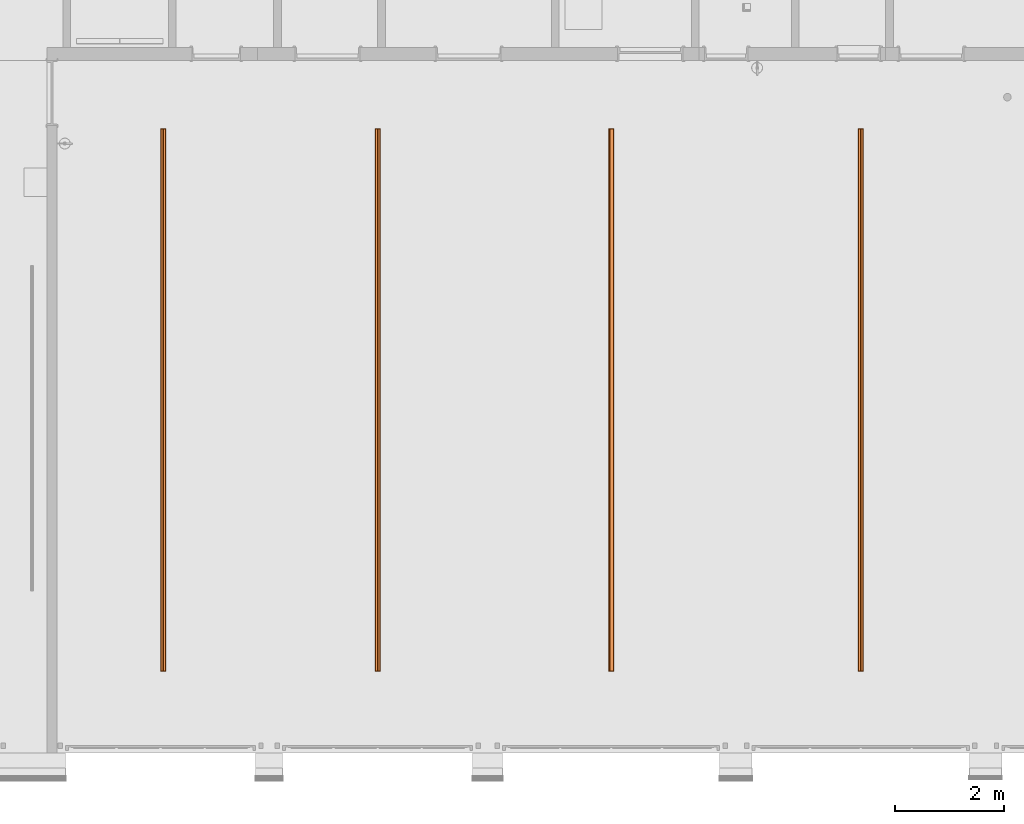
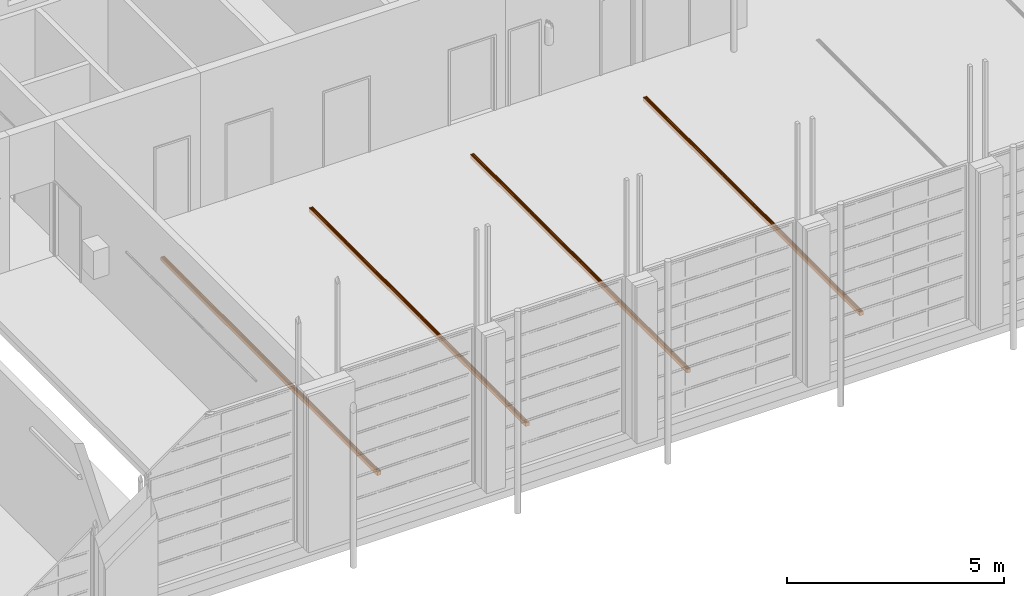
# One storey, part 65 of 112: 4 proxies.
"""IFC2X3 building model written with IfcOpenShell, lengths in millimetres."""

from ifc_helpers import new_model, entity, si_unit, converted_unit, derived_unit, money_unit, direction, frame, origin_with_axes, place, context, subcontext, project, spatial, faceted_brep, source, transform, mapped, type_object, element, save


model = new_model("IFC2X3")

# Units and contexts
model_context = context("Model", 3, precision=0.01, world=origin_with_axes(), true_north=direction((0.0, 1.0)))
body_context = subcontext(model_context, "Body", "Model", "MODEL_VIEW")
ifc_project = project(units=[si_unit("LENGTHUNIT", "METRE", prefix="MILLI"), si_unit("AREAUNIT", "SQUARE_METRE"), si_unit("VOLUMEUNIT", "CUBIC_METRE"), converted_unit("PLANEANGLEUNIT", "DEGREE", entity("IfcPlaneAngleMeasure", 0.0174532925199), si_unit("PLANEANGLEUNIT", "RADIAN"), dimensions=[0, 0, 0, 0, 0, 0, 0]), si_unit("SOLIDANGLEUNIT", "STERADIAN"), money_unit("EUR"), converted_unit("TIMEUNIT", "Year", entity("IfcTimeMeasure", 31556926.0), si_unit("TIMEUNIT", "SECOND"), dimensions=[0, 0, 1, 0, 0, 0, 0]), si_unit("MASSUNIT", "GRAM", prefix="KILO"), si_unit("THERMODYNAMICTEMPERATUREUNIT", "DEGREE_CELSIUS"), si_unit("LUMINOUSINTENSITYUNIT", "LUMEN"), si_unit("ENERGYUNIT", "JOULE", prefix="MEGA"), derived_unit("THERMALCONDUCTANCEUNIT", [(si_unit("POWERUNIT", "WATT"), 1), (si_unit("LENGTHUNIT", "METRE"), -1), (si_unit("THERMODYNAMICTEMPERATUREUNIT", "KELVIN"), -1)]), derived_unit("SPECIFICHEATCAPACITYUNIT", [(si_unit("ENERGYUNIT", "JOULE"), 1), (si_unit("MASSUNIT", "GRAM", prefix="KILO"), -1), (si_unit("THERMODYNAMICTEMPERATUREUNIT", "KELVIN"), -1)]), derived_unit("MASSDENSITYUNIT", [(si_unit("MASSUNIT", "GRAM", prefix="KILO"), 1), (si_unit("VOLUMEUNIT", "CUBIC_METRE"), -1)])], contexts=[model_context])

# Site, building, storey
site_placement = place(None, origin_with_axes())
site = spatial("IfcSite", under=ifc_project, at=site_placement, Name="Politse- ja Piirivalveameti ning Päästeameti ühishoone", CompositionType="ELEMENT")
building_placement = place(site_placement, origin_with_axes())
building = spatial("IfcBuilding", under=site, at=building_placement, Name="Politse- ja Piirivalveameti ning Päästeameti ühishoone", CompositionType="ELEMENT")
storey_placement = place(building_placement, origin_with_axes())
storey = spatial("IfcBuildingStorey", under=building, at=storey_placement, Name="Esimene korrus", CompositionType="ELEMENT", Elevation=0.0)

# Proxies
building_element_proxy_type = type_object("IfcBuildingElementProxyType", Name="Grid 23", PredefinedType="NOTDEFINED")
shared_shape = source(origin_with_axes(), body_context, "Body", "Brep", [
    faceted_brep([(0.0, 0.0, 0.0), (5.0, 5.0, 0.0), (5.0, 5.0, 100.0), (0.0, 0.0, 100.0), (0.0, 10000.0, 0.0), (5.0, 9995.0, 0.0), (5.0, 5001.0, 0.0), (5.0, 4999.0, 0.0), (5.0, 4999.0, 100.0), (5.0, 5001.0, 100.0), (5.0, 9995.0, 100.0), (0.0, 10000.0, 100.0)], [[[0, 1, 2, 3]], [[0, 4, 5, 6, 7, 1]], [[1, 7, 8, 2]], [[3, 2, 8, 9, 10, 11]], [[4, 0, 3, 11]], [[5, 4, 11, 10]], [[6, 5, 10, 9]], [[7, 6, 9, 8]]]),
    faceted_brep([(100.0, 10000.0, 0.0), (95.0, 9995.0, 0.0), (95.0, 9995.0, 100.0), (100.0, 10000.0, 100.0), (100.0, 0.0, 0.0), (95.0, 5.0, 0.0), (95.0, 4999.0, 0.0), (95.0, 5001.0, 0.0), (95.0, 5001.0, 100.0), (95.0, 4999.0, 100.0), (95.0, 5.0, 100.0), (100.0, 0.0, 100.0)], [[[0, 1, 2, 3]], [[0, 4, 5, 6, 7, 1]], [[1, 7, 8, 2]], [[3, 2, 8, 9, 10, 11]], [[4, 0, 3, 11]], [[5, 4, 11, 10]], [[6, 5, 10, 9]], [[7, 6, 9, 8]]]),
    faceted_brep([(100.0, 0.0, 0.0), (95.0, 5.0, 0.0), (95.0, 5.0, 100.0), (100.0, 0.0, 100.0), (0.0, 0.0, 0.0), (5.0, 5.0, 0.0), (25.25, 5.0, 0.0), (27.25, 5.0, 0.0), (49.0, 5.0, 0.0), (51.0, 5.0, 0.0), (72.75, 5.0, 0.0), (74.75, 5.0, 0.0), (74.75, 5.0, 100.0), (72.75, 5.0, 100.0), (51.0, 5.0, 100.0), (49.0, 5.0, 100.0), (27.25, 5.0, 100.0), (25.25, 5.0, 100.0), (5.0, 5.0, 100.0), (0.0, 0.0, 100.0)], [[[0, 1, 2, 3]], [[0, 4, 5, 6, 7, 8, 9, 10, 11, 1]], [[1, 11, 12, 2]], [[3, 2, 12, 13, 14, 15, 16, 17, 18, 19]], [[4, 0, 3, 19]], [[5, 4, 19, 18]], [[6, 5, 18, 17]], [[7, 6, 17, 16]], [[8, 7, 16, 15]], [[9, 8, 15, 14]], [[10, 9, 14, 13]], [[11, 10, 13, 12]]]),
    faceted_brep([(0.0, 10000.0, 0.0), (5.0, 9995.0, 0.0), (5.0, 9995.0, 100.0), (0.0, 10000.0, 100.0), (100.0, 10000.0, 0.0), (95.0, 9995.0, 0.0), (74.75, 9995.0, 0.0), (72.75, 9995.0, 0.0), (51.0, 9995.0, 0.0), (49.0, 9995.0, 0.0), (27.25, 9995.0, 0.0), (25.25, 9995.0, 0.0), (25.25, 9995.0, 100.0), (27.25, 9995.0, 100.0), (49.0, 9995.0, 100.0), (51.0, 9995.0, 100.0), (72.75, 9995.0, 100.0), (74.75, 9995.0, 100.0), (95.0, 9995.0, 100.0), (100.0, 10000.0, 100.0)], [[[0, 1, 2, 3]], [[0, 4, 5, 6, 7, 8, 9, 10, 11, 1]], [[1, 11, 12, 2]], [[3, 2, 12, 13, 14, 15, 16, 17, 18, 19]], [[4, 0, 3, 19]], [[5, 4, 19, 18]], [[6, 5, 18, 17]], [[7, 6, 17, 16]], [[8, 7, 16, 15]], [[9, 8, 15, 14]], [[10, 9, 14, 13]], [[11, 10, 13, 12]]]),
    faceted_brep([(25.25, 5.0, 0.0), (27.25, 5.0, 0.0), (27.25, 5.0, 100.0), (25.25, 5.0, 100.0), (25.25, 4999.0, 0.0), (25.25, 5001.0, 0.0), (25.25, 9995.0, 0.0), (27.25, 9995.0, 0.0), (27.25, 5001.0, 0.0), (27.25, 4999.0, 0.0), (27.25, 4999.0, 100.0), (27.25, 5001.0, 100.0), (27.25, 9995.0, 100.0), (25.25, 9995.0, 100.0), (25.25, 5001.0, 100.0), (25.25, 4999.0, 100.0)], [[[0, 1, 2, 3]], [[0, 4, 5, 6, 7, 8, 9, 1]], [[1, 9, 10, 2]], [[3, 2, 10, 11, 12, 13, 14, 15]], [[4, 0, 3, 15]], [[5, 4, 15, 14]], [[6, 5, 14, 13]], [[7, 6, 13, 12]], [[8, 7, 12, 11]], [[9, 8, 11, 10]]]),
    faceted_brep([(49.0, 5.0, 0.0), (51.0, 5.0, 0.0), (51.0, 5.0, 100.0), (49.0, 5.0, 100.0), (49.0, 4999.0, 0.0), (49.0, 5001.0, 0.0), (49.0, 9995.0, 0.0), (51.0, 9995.0, 0.0), (51.0, 5001.0, 0.0), (51.0, 4999.0, 0.0), (51.0, 4999.0, 100.0), (51.0, 5001.0, 100.0), (51.0, 9995.0, 100.0), (49.0, 9995.0, 100.0), (49.0, 5001.0, 100.0), (49.0, 4999.0, 100.0)], [[[0, 1, 2, 3]], [[0, 4, 5, 6, 7, 8, 9, 1]], [[1, 9, 10, 2]], [[3, 2, 10, 11, 12, 13, 14, 15]], [[4, 0, 3, 15]], [[5, 4, 15, 14]], [[6, 5, 14, 13]], [[7, 6, 13, 12]], [[8, 7, 12, 11]], [[9, 8, 11, 10]]]),
    faceted_brep([(72.75, 5.0, 0.0), (74.75, 5.0, 0.0), (74.75, 5.0, 100.0), (72.75, 5.0, 100.0), (72.75, 4999.0, 0.0), (72.75, 5001.0, 0.0), (72.75, 9995.0, 0.0), (74.75, 9995.0, 0.0), (74.75, 5001.0, 0.0), (74.75, 4999.0, 0.0), (74.75, 4999.0, 100.0), (74.75, 5001.0, 100.0), (74.75, 9995.0, 100.0), (72.75, 9995.0, 100.0), (72.75, 5001.0, 100.0), (72.75, 4999.0, 100.0)], [[[0, 1, 2, 3]], [[0, 4, 5, 6, 7, 8, 9, 1]], [[1, 9, 10, 2]], [[3, 2, 10, 11, 12, 13, 14, 15]], [[4, 0, 3, 15]], [[5, 4, 15, 14]], [[6, 5, 14, 13]], [[7, 6, 13, 12]], [[8, 7, 12, 11]], [[9, 8, 11, 10]]]),
    faceted_brep([(25.25, 4999.0, 0.0), (25.25, 5001.0, 0.0), (25.25, 5001.0, 100.0), (25.25, 4999.0, 100.0), (5.0, 4999.0, 0.0), (5.0, 5001.0, 0.0), (5.0, 5001.0, 100.0), (5.0, 4999.0, 100.0)], [[[0, 1, 2, 3]], [[0, 4, 5, 1]], [[1, 5, 6, 2]], [[3, 2, 6, 7]], [[4, 0, 3, 7]], [[5, 4, 7, 6]]]),
    faceted_brep([(49.0, 4999.0, 0.0), (49.0, 5001.0, 0.0), (49.0, 5001.0, 100.0), (49.0, 4999.0, 100.0), (27.25, 4999.0, 0.0), (27.25, 5001.0, 0.0), (27.25, 5001.0, 100.0), (27.25, 4999.0, 100.0)], [[[0, 1, 2, 3]], [[0, 4, 5, 1]], [[1, 5, 6, 2]], [[3, 2, 6, 7]], [[4, 0, 3, 7]], [[5, 4, 7, 6]]]),
    faceted_brep([(72.75, 4999.0, 0.0), (72.75, 5001.0, 0.0), (72.75, 5001.0, 100.0), (72.75, 4999.0, 100.0), (51.0, 4999.0, 0.0), (51.0, 5001.0, 0.0), (51.0, 5001.0, 100.0), (51.0, 4999.0, 100.0)], [[[0, 1, 2, 3]], [[0, 4, 5, 1]], [[1, 5, 6, 2]], [[3, 2, 6, 7]], [[4, 0, 3, 7]], [[5, 4, 7, 6]]]),
    faceted_brep([(95.0, 4999.0, 0.0), (95.0, 5001.0, 0.0), (95.0, 5001.0, 100.0), (95.0, 4999.0, 100.0), (74.75, 4999.0, 0.0), (74.75, 5001.0, 0.0), (74.75, 5001.0, 100.0), (74.75, 4999.0, 100.0)], [[[0, 1, 2, 3]], [[0, 4, 5, 1]], [[1, 5, 6, 2]], [[3, 2, 6, 7]], [[4, 0, 3, 7]], [[5, 4, 7, 6]]]),
    faceted_brep([(5.0, 5.0, 43.65), (25.25, 5.0, 43.65), (25.25, 5.0, 56.35), (5.0, 5.0, 56.35), (5.0, 4999.0, 43.65), (25.25, 4999.0, 43.65), (25.25, 4999.0, 56.35), (5.0, 4999.0, 56.35)], [[[0, 1, 2, 3]], [[0, 4, 5, 1]], [[1, 5, 6, 2]], [[3, 2, 6, 7]], [[4, 0, 3, 7]], [[5, 4, 7, 6]]]),
    faceted_brep([(5.0, 5001.0, 43.65), (25.25, 5001.0, 43.65), (25.25, 5001.0, 56.35), (5.0, 5001.0, 56.35), (5.0, 9995.0, 43.65), (25.25, 9995.0, 43.65), (25.25, 9995.0, 56.35), (5.0, 9995.0, 56.35)], [[[0, 1, 2, 3]], [[0, 4, 5, 1]], [[1, 5, 6, 2]], [[3, 2, 6, 7]], [[4, 0, 3, 7]], [[5, 4, 7, 6]]]),
    faceted_brep([(27.25, 5.0, 43.65), (49.0, 5.0, 43.65), (49.0, 5.0, 56.35), (27.25, 5.0, 56.35), (27.25, 4999.0, 43.65), (49.0, 4999.0, 43.65), (49.0, 4999.0, 56.35), (27.25, 4999.0, 56.35)], [[[0, 1, 2, 3]], [[0, 4, 5, 1]], [[1, 5, 6, 2]], [[3, 2, 6, 7]], [[4, 0, 3, 7]], [[5, 4, 7, 6]]]),
    faceted_brep([(27.25, 5001.0, 43.65), (49.0, 5001.0, 43.65), (49.0, 5001.0, 56.35), (27.25, 5001.0, 56.35), (27.25, 9995.0, 43.65), (49.0, 9995.0, 43.65), (49.0, 9995.0, 56.35), (27.25, 9995.0, 56.35)], [[[0, 1, 2, 3]], [[0, 4, 5, 1]], [[1, 5, 6, 2]], [[3, 2, 6, 7]], [[4, 0, 3, 7]], [[5, 4, 7, 6]]]),
    faceted_brep([(51.0, 5.0, 43.65), (72.75, 5.0, 43.65), (72.75, 5.0, 56.35), (51.0, 5.0, 56.35), (51.0, 4999.0, 43.65), (72.75, 4999.0, 43.65), (72.75, 4999.0, 56.35), (51.0, 4999.0, 56.35)], [[[0, 1, 2, 3]], [[0, 4, 5, 1]], [[1, 5, 6, 2]], [[3, 2, 6, 7]], [[4, 0, 3, 7]], [[5, 4, 7, 6]]]),
    faceted_brep([(51.0, 5001.0, 43.65), (72.75, 5001.0, 43.65), (72.75, 5001.0, 56.35), (51.0, 5001.0, 56.35), (51.0, 9995.0, 43.65), (72.75, 9995.0, 43.65), (72.75, 9995.0, 56.35), (51.0, 9995.0, 56.35)], [[[0, 1, 2, 3]], [[0, 4, 5, 1]], [[1, 5, 6, 2]], [[3, 2, 6, 7]], [[4, 0, 3, 7]], [[5, 4, 7, 6]]]),
    faceted_brep([(74.75, 5.0, 43.65), (95.0, 5.0, 43.65), (95.0, 5.0, 56.35), (74.75, 5.0, 56.35), (74.75, 4999.0, 43.65), (95.0, 4999.0, 43.65), (95.0, 4999.0, 56.35), (74.75, 4999.0, 56.35)], [[[0, 1, 2, 3]], [[0, 4, 5, 1]], [[1, 5, 6, 2]], [[3, 2, 6, 7]], [[4, 0, 3, 7]], [[5, 4, 7, 6]]]),
    faceted_brep([(74.75, 5001.0, 43.65), (95.0, 5001.0, 43.65), (95.0, 5001.0, 56.35), (74.75, 5001.0, 56.35), (74.75, 9995.0, 43.65), (95.0, 9995.0, 43.65), (95.0, 9995.0, 56.35), (74.75, 9995.0, 56.35)], [[[0, 1, 2, 3]], [[0, 4, 5, 1]], [[1, 5, 6, 2]], [[3, 2, 6, 7]], [[4, 0, 3, 7]], [[5, 4, 7, 6]]]),
])
for number, where, z_axis, x_axis, name in (
    (1, (34759.7115773, 1502.5, -100.0), (0.0, 0.0, 1.0), (1.0, 0.0, 0.0), "Äravoolurenn (112)"),
    (2, (38710.117689, 1502.5, -100.0), (0.0, 0.0, 1.0), (1.0, 0.0, 0.0), "Äravoolurenn (113)"),
    (3, (43009.2990383, 1502.5, -100.0), (0.0, 0.0, 1.0), (1.0, 0.0, 0.0), "Äravoolurenn (114)"),
    (4, (47609.3060661, 1502.5, -100.0), (0.0, 0.0, 1.0), (1.0, 0.0, 0.0), "Äravoolurenn (114)"),
):
    element("IfcBuildingElementProxy", number, at=place(storey_placement, frame(where, z_axis=z_axis, x_axis=x_axis)), inside=storey, type_object=building_element_proxy_type, Name=name, context=body_context, shape_type="MappedRepresentation", body=[
        mapped(shared_shape, transform((0.0, 0.0, 0.0))),
    ])

save(model, "model.ifc")
